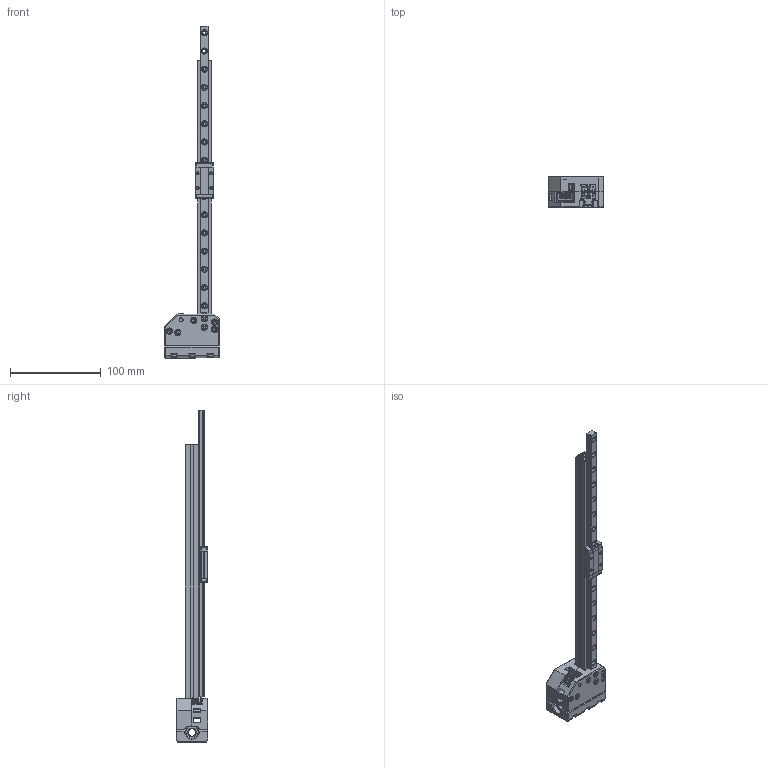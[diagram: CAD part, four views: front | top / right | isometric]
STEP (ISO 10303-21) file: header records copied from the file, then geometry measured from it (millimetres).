
FILE_DESCRIPTION(/* description */ ('FreeCAD Model'),/* implementation_level */ '2;1');
FILE_NAME(/* name */ 'Proosa MGN9 Y-carriers - LM8UU - Narrow.step',/* time_stamp */ '2026-07-08T18:23:01+02:00',/* author */ (''),/* organization */ (''),/* preprocessor_version */ 'ST-DEVELOPER v20.1',/* originating_system */ 'Autodesk Translation Framework v15.8.0.0',/* authorisation */ '');
FILE_SCHEMA (('AUTOMOTIVE_DESIGN { 1 0 10303 214 3 1 1 }'));
Products named in the file (28): y-carrier-common; 1515 with MGN9H; HIWIN MGN09H1R315Z0HM; MGNR09R315HM; MGN09HZ0HM; 103172; Hardware; Screws; socket head cap screw_am_B18.3.1M - 3 x 0.5 x 30 Hex SHCS -- 18NHX; M3x14-Screw089; VITE_TESTA_BOMBATA_ESAGONO_INCASSATO; M5x30-Screw004; Heat inserts; Knurled Insert M3xH4; Componente4; Washer; 0.5mm_shim^drive_core_sherpa_mini_a3_r9c; Dowel pins; M3x16 dowel pin; Nuts; M3-Nut078; Bearings; F623RS bearing stack; flat washer narrow_am_B18.22M - Plain washer, 3 mm, narrow; F623ZZ Flange Bearing; Gates_2GT_20T_Toothed_Idler; 3.Linear Bearing-LM8UU; y-carrier-cap004
Assembly tree (55 placements, depth 4):
  y-carrier-common
    1515 with MGN9H
      HIWIN MGN09H1R315Z0HM
        MGNR09R315HM
        MGN09HZ0HM
      103172
    Hardware
      Screws
        socket head cap screw_am_B18.3.1M - 3 x 0.5 x 30 Hex SHCS -- 18NHX  x5
        M3x14-Screw089  x6
        VITE_TESTA_BOMBATA_ESAGONO_INCASSATO  x4
        M5x30-Screw004
      Heat inserts
        Knurled Insert M3xH4  x11
      Componente4
      Washer
        0.5mm_shim^drive_core_sherpa_mini_a3_r9c  x2
      Dowel pins
        M3x16 dowel pin
      Nuts
        M3-Nut078  x4
    Bearings
      F623RS bearing stack
        flat washer narrow_am_B18.22M - Plain washer, 3 mm, narrow
        F623ZZ Flange Bearing  x2
      Gates_2GT_20T_Toothed_Idler
      3.Linear Bearing-LM8UU  x2
    y-carrier-cap004
Bounding box: 60.01 x 35 x 364.95 mm (x, y, z)
Volume: 133532.1 mm3; surface area: 103553.1 mm2
Topology: 72 solids, 72 shells, 3596 faces, 9203 edges, 5797 vertices
Faces by surface type: plane 1423, cylinder 1167, bspline 686, cone 257, torus 46, sphere 17
Full cylindrical faces by diameter (mm): 1.4 x8, 1.471 x52, 1.868 x56, 2 x1, 2.459 x15, 2.529 x20, 3 x18, 3.086 x16, 3.15 x2, 3.2 x14, 3.3 x12, 3.5 x16, 3.68 x1, 3.734 x22, 4 x11, 4.4 x2, 5 x6, 5.4 x4, 5.5 x11, 6 x33, 7 x3, 7.7 x4, 7.9 x4, 8 x2, 8.385 x2, 8.4 x6, 9 x8, 10 x3, 10.5 x4, 11.5 x2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
Entity records: 125879 total; most frequent: CARTESIAN_POINT 70519, ORIENTED_EDGE 11926, DIRECTION 10871, EDGE_CURVE 5963, AXIS2_PLACEMENT_3D 3971, VERTEX_POINT 3935, LINE 2929, VECTOR 2929
